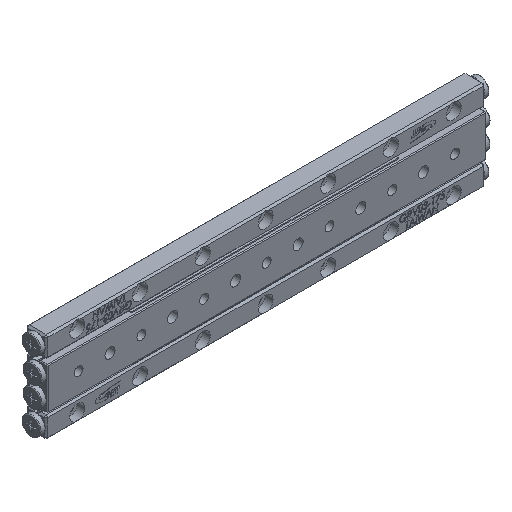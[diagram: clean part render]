
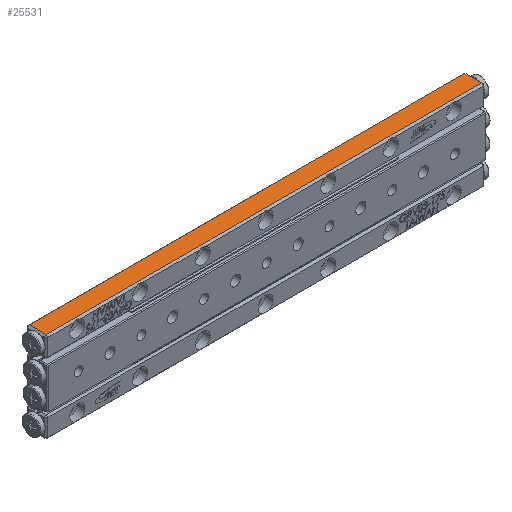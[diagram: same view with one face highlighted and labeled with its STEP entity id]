
A CAD part, isometric view. The second image highlights one B-rep face of the part: STEP entity #25531.
In plain terms, the highlighted planar face has unit normal (0, 0, 1) as drawn and (0, 0, -1) by its records, which use the part's own axes.
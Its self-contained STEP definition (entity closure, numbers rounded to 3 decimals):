
#2119 = LINE ( 'NONE', #36285, #2571 ) ;
#2571 = VECTOR ( 'NONE', #7664, 1000. ) ;
#4913 = VERTEX_POINT ( 'NONE', #33827 ) ;
#4969 = EDGE_LOOP ( 'NONE', ( #36697, #22152, #36794, #11002 ) ) ;
#6717 = EDGE_CURVE ( 'NONE', #34227, #4913, #2119, .T. ) ;
#7664 = DIRECTION ( 'NONE',  ( 0., 1., 0. ) ) ;
#11002 = ORIENTED_EDGE ( 'NONE', *, *, #39735, .T. ) ;
#13115 = VECTOR ( 'NONE', #31155, 1000. ) ;
#13396 = CARTESIAN_POINT ( 'NONE',  ( 86.8, 3.3, 0. ) ) ;
#16331 = CARTESIAN_POINT ( 'NONE',  ( -86.8, -3.3, 0. ) ) ;
#16851 = CARTESIAN_POINT ( 'NONE',  ( 86.8, -4., 0. ) ) ;
#17580 = DIRECTION ( 'NONE',  ( 1., 0., 0. ) ) ;
#17996 = FACE_OUTER_BOUND ( 'NONE', #4969, .T. ) ;
#19118 = VERTEX_POINT ( 'NONE', #27145 ) ;
#20096 = AXIS2_PLACEMENT_3D ( 'NONE', #33320, #40061, #17580 ) ;
#20652 = PLANE ( 'NONE',  #20096 ) ;
#21665 = DIRECTION ( 'NONE',  ( 1., 0., 0. ) ) ;
#22152 = ORIENTED_EDGE ( 'NONE', *, *, #6717, .T. ) ;
#23382 = LINE ( 'NONE', #16851, #28391 ) ;
#24305 = VERTEX_POINT ( 'NONE', #13396 ) ;
#24613 = LINE ( 'NONE', #37461, #13115 ) ;
#24952 = CARTESIAN_POINT ( 'NONE',  ( 87.5, 3.3, 0. ) ) ;
#25157 = LINE ( 'NONE', #24952, #39392 ) ;
#25531 = ADVANCED_FACE ( 'NONE', ( #17996 ), #20652, .F. ) ;
#26773 = EDGE_CURVE ( 'NONE', #19118, #34227, #24613, .T. ) ;
#27145 = CARTESIAN_POINT ( 'NONE',  ( 86.8, -3.3, 0. ) ) ;
#28391 = VECTOR ( 'NONE', #32595, 1000. ) ;
#31155 = DIRECTION ( 'NONE',  ( -1., 0., 0. ) ) ;
#32595 = DIRECTION ( 'NONE',  ( 0., -1., 0. ) ) ;
#33320 = CARTESIAN_POINT ( 'NONE',  ( 87.5, 4., 0. ) ) ;
#33827 = CARTESIAN_POINT ( 'NONE',  ( -86.8, 3.3, 0. ) ) ;
#34227 = VERTEX_POINT ( 'NONE', #16331 ) ;
#36285 = CARTESIAN_POINT ( 'NONE',  ( -86.8, 4., 0. ) ) ;
#36697 = ORIENTED_EDGE ( 'NONE', *, *, #26773, .T. ) ;
#36794 = ORIENTED_EDGE ( 'NONE', *, *, #38151, .T. ) ;
#37461 = CARTESIAN_POINT ( 'NONE',  ( 87.5, -3.3, 0. ) ) ;
#38151 = EDGE_CURVE ( 'NONE', #4913, #24305, #25157, .T. ) ;
#39392 = VECTOR ( 'NONE', #21665, 1000. ) ;
#39735 = EDGE_CURVE ( 'NONE', #24305, #19118, #23382, .T. ) ;
#40061 = DIRECTION ( 'NONE',  ( 0., 0., 1. ) ) ;
